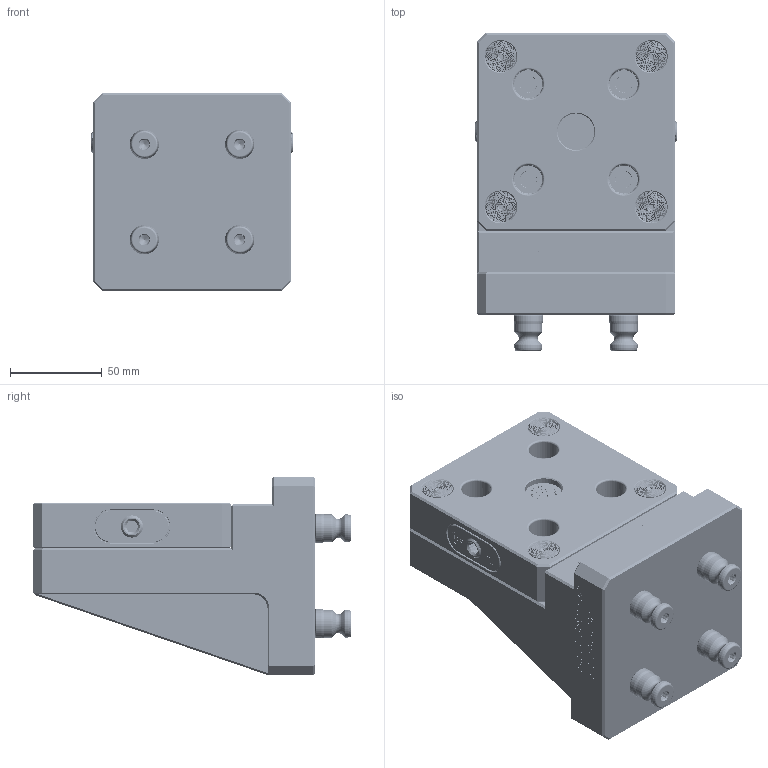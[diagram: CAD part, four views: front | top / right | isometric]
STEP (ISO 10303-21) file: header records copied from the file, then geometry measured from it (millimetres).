
FILE_DESCRIPTION((''),'2;1');
FILE_NAME('TS52-9096_SS','2023-11-22T15:40:54',('XF'),(''),'CREO PARAMETRIC BY PTC INC, 2022073','CREO PARAMETRIC BY PTC INC, 2022073','');
FILE_SCHEMA(('CONFIG_CONTROL_DESIGN'));
Products named in the file (1): TS52-9096_SS
Bounding box: 110 x 173.56 x 108 mm (x, y, z)
Volume: 1150079.1 mm3; surface area: 104149.1 mm2
Topology: 5 solids, 31 shells, 5109 faces, 12663 edges, 8132 vertices
Faces by surface type: plane 2078, extrusion 1341, cone 1280, cylinder 266, torus 112, bspline 32
Entity records: 159313 total; most frequent: CARTESIAN_POINT 41618, ORIENTED_EDGE 25294, DIRECTION 21146, EDGE_CURVE 12647, VECTOR 8506, VERTEX_POINT 8132, LINE 7165, AXIS2_PLACEMENT_3D 6320
